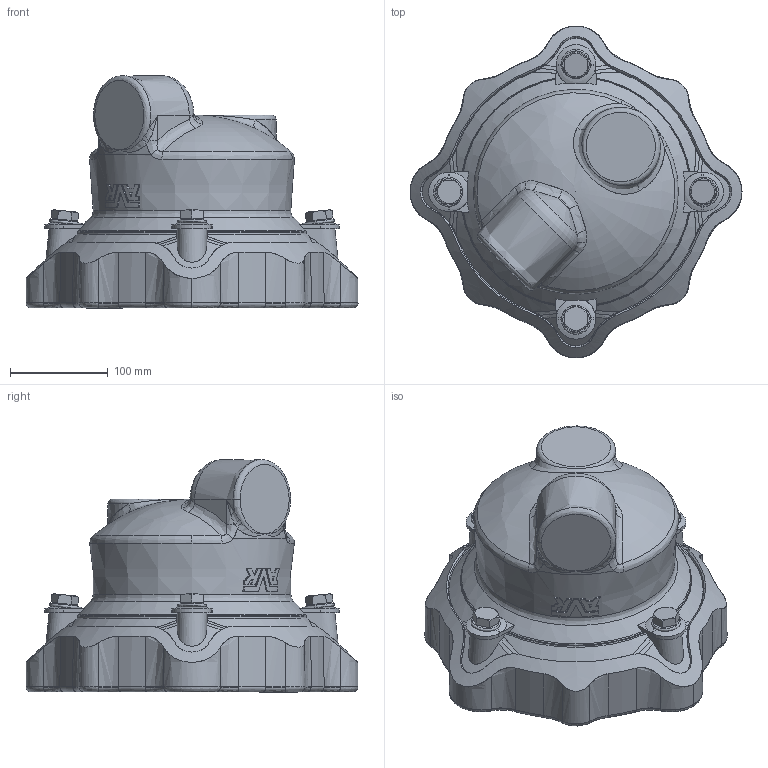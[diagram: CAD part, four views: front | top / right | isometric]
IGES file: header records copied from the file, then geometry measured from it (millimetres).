
Start section: SolidWorks IGES file using analytic representation for surfaces
Global section: file name: \\avksan2\techshare\PBM outline export from Enovia\O_634_00_DN150_159-188mm_AA0_igs.igs; native system: SolidWorks 2012; preprocessor: SolidWorks 2012; author: pbm; date: 160510.124145; units: millimetre
Bounding box: 339.89 x 339.89 x 238.51 mm (x, y, z)
Surface area: 379346.1 mm2 (no closed solid volume)
Topology: 0 solids, 0 shells, 522 faces, 3532 edges, 3506 vertices
Faces by surface type: revolution 297, bspline 225
